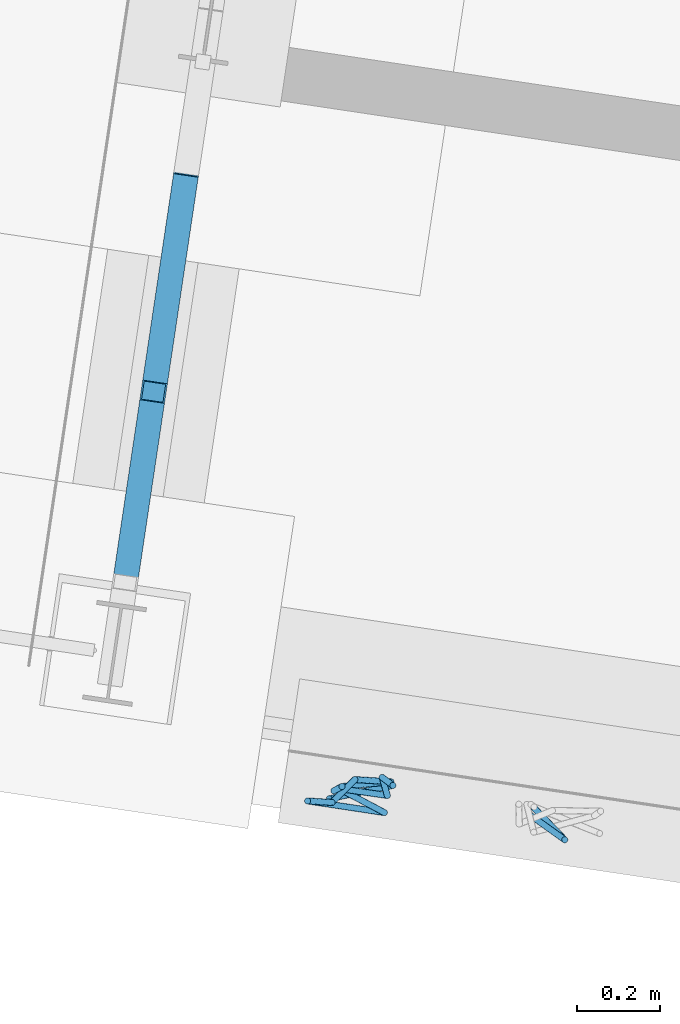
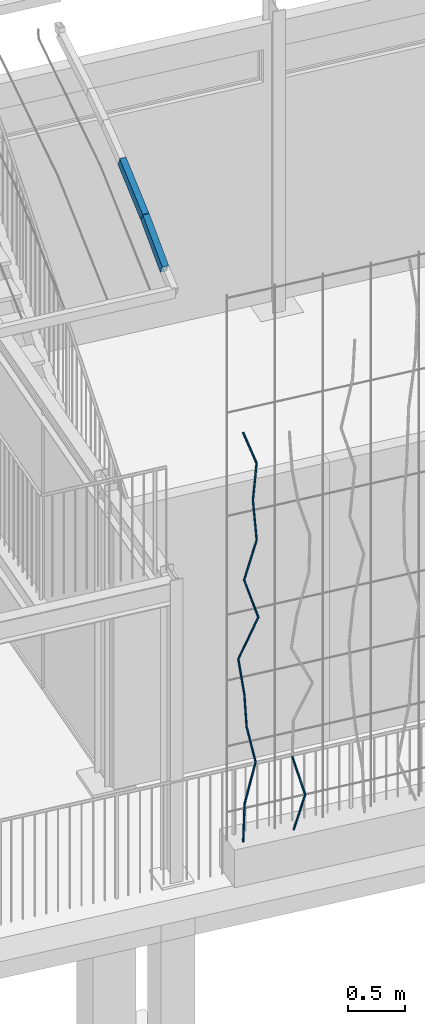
# One storey, part 111 of 143: 15 members, 2 elements without a shape of their own.
"""IFC4 building model written with IfcOpenShell, lengths in metres."""

from ifc_helpers import new_model, si_unit, direction, frame, origin_with_axes, place, context, subcontext, project, spatial, hollow_rectangle, circle, extrude, material, material_profile, profile_set, profile_usage, type_object, element, aggregate, save


model = new_model("IFC4")

# Units and contexts
model_context = context("Model", 3, precision=1e-05, world=origin_with_axes(), true_north=direction((0.0, 1.0)))
body_context = subcontext(model_context, "Body", "Model", "MODEL_VIEW")
ifc_project = project(units=[si_unit("VOLUMEUNIT", "CUBIC_METRE"), si_unit("LENGTHUNIT", "METRE"), si_unit("AREAUNIT", "SQUARE_METRE")], contexts=[model_context])

# Site, building, storey
site_placement = place(None, origin_with_axes())
site = spatial("IfcSite", under=ifc_project, at=site_placement, Name="Lares · Rua das Mercês · artigo 4771")
building_placement = place(site_placement, frame((15.0, 9.7, 15.8), z_axis=(0.0, 0.0, 1.0), x_axis=(0.989015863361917, -0.147809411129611, 0.0)))
building = spatial("IfcBuilding", under=site, at=building_placement, Name="Casa Sobreposta")
storey_placement = place(building_placement, origin_with_axes())
storey = spatial("IfcBuildingStorey", under=building, at=storey_placement, Name="00 · Habitação e estacionamento", Elevation=15.8)

# Assembly, members
assembly_1_placement = place(storey_placement, origin_with_axes())
assembly_1 = element("IfcElementAssembly", 1, at=assembly_1_placement, inside=storey, Name="Pérgola · prolongamento da estufa 6 m", ObjectType="PERGOLA_GREENHOUSE_EXTENSION", PredefinedType="USERDEFINED")
ifc_material_1 = material(Name="Aço pintado / Stahl lackiert", Category="steel")
ifc_material_profile_1 = material_profile(ifc_material_1, hollow_rectangle(XDim=0.06, YDim=0.1, WallThickness=0.004))
ifc_profile_set_1 = profile_set([ifc_material_profile_1], Name="RHS100x60x4")
ifc_profile_usage_1 = profile_usage(ifc_profile_set_1)
member_type_1 = type_object("IfcMemberType", Name="RHS100x60x4 / steel", PredefinedType="NOTDEFINED", material=ifc_profile_set_1)
member_1_placement = place(assembly_1_placement, frame((0.0, -1.26765509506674, 6.32392631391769), z_axis=(0.0, 0.878851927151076, 0.477094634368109), x_axis=(1.0, 0.0, 0.0)))
member_1 = element("IfcMember", 2, at=member_1_placement, type_object=member_type_1, material=ifc_profile_usage_1, Name="Pérgola · arco contínuo com a estufa", context=body_context, shape_type="SweptSolid", body=[
    extrude(hollow_rectangle(XDim=0.06, YDim=0.1, WallThickness=0.004), origin_with_axes(), (0.0, 0.0, 1.0), 0.52863528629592),
])
ifc_profile_usage_2 = profile_usage(ifc_profile_set_1)
member_2_placement = place(assembly_1_placement, frame((0.0, -0.803062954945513, 6.57613537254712), z_axis=(0.0, 0.915885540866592, 0.401439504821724), x_axis=(1.0, 0.0, 0.0)))
member_2 = element("IfcMember", 3, at=member_2_placement, type_object=member_type_1, material=ifc_profile_usage_2, Name="Pérgola · arco contínuo com a estufa", context=body_context, shape_type="SweptSolid", body=[
    extrude(hollow_rectangle(XDim=0.06, YDim=0.1, WallThickness=0.004), origin_with_axes(), (0.0, 0.0, 1.0), 0.596771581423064),
])
aggregate(assembly_1, [member_1, member_2])

assembly_2_placement = place(storey_placement, origin_with_axes())
assembly_2 = element("IfcElementAssembly", 4, at=assembly_2_placement, inside=storey, Name="Fachada sul e pátio · estrutura e trepadeiras", ObjectType="LIVING_SHADE_TRELLIS", PredefinedType="USERDEFINED")
ifc_material_2 = material(Name="Ramos de trepadeiras", Category="wood")
ifc_material_profile_2 = material_profile(ifc_material_2, circle(Radius=0.0075))
ifc_profile_set_2 = profile_set([ifc_material_profile_2], Name="D0.015")
ifc_profile_usage_3 = profile_usage(ifc_profile_set_2)
member_type_2 = type_object("IfcMemberType", Name="D0.015 / vine_wood", PredefinedType="NOTDEFINED", material=ifc_profile_set_2)
member_3_placement = place(assembly_2_placement, frame((0.571287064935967, -1.6890751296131, 0.35), z_axis=(0.0449251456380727, 0.0325114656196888, 0.99846118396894), x_axis=(0.586266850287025, -0.810118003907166, 0.0)))
member_3 = element("IfcMember", 5, at=member_3_placement, type_object=member_type_2, material=ifc_profile_usage_3, Name="Trepadeiras · ramo", context=body_context, shape_type="SweptSolid", body=[
    extrude(circle(Radius=0.0075), origin_with_axes(), (0.0, 0.0, 1.0), 0.398376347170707),
])
ifc_profile_usage_4 = profile_usage(ifc_profile_set_2)
member_4_placement = place(assembly_2_placement, frame((0.589184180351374, -1.67612333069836, 0.747763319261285), z_axis=(0.276858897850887, 0.0690830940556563, 0.958424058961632), x_axis=(0.242101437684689, -0.970250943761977, 0.0)))
member_4 = element("IfcMember", 6, at=member_4_placement, type_object=member_type_2, material=ifc_profile_usage_4, Name="Trepadeiras · ramo", context=body_context, shape_type="SweptSolid", body=[
    extrude(circle(Radius=0.0075), origin_with_axes(), (0.0, 0.0, 1.0), 0.415018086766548),
])
ifc_profile_usage_5 = profile_usage(ifc_profile_set_2)
member_5_placement = place(assembly_2_placement, frame((0.704085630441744, -1.64745259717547, 1.14552663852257), z_axis=(-0.213497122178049, -0.0182552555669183, 0.976773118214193), x_axis=(-0.0851949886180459, 0.996364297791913, 0.0)))
member_5 = element("IfcMember", 7, at=member_5_placement, type_object=member_type_2, material=ifc_profile_usage_5, Name="Trepadeiras · ramo", context=body_context, shape_type="SweptSolid", body=[
    extrude(circle(Radius=0.0075), origin_with_axes(), (0.0, 0.0, 1.0), 0.40722181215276),
])
ifc_profile_usage_6 = profile_usage(ifc_profile_set_2)
member_6_placement = place(assembly_2_placement, frame((0.617144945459, -1.65488653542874, 1.54328995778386), z_axis=(-0.114116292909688, -0.154704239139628, 0.981348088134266), x_axis=(-0.80474844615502, 0.593615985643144, 0.0)))
member_6 = element("IfcMember", 8, at=member_6_placement, type_object=member_type_2, material=ifc_profile_usage_6, Name="Trepadeiras · ramo", context=body_context, shape_type="SweptSolid", body=[
    extrude(circle(Radius=0.0075), origin_with_axes(), (0.0, 0.0, 1.0), 0.405323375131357),
])
ifc_profile_usage_7 = profile_usage(ifc_profile_set_2)
member_7_placement = place(assembly_2_placement, frame((0.570890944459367, -1.71759177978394, 1.94105327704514), z_axis=(-0.145417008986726, -0.0128334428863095, 0.989287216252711), x_axis=(-0.0879110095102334, 0.996128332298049, 0.0)))
member_7 = element("IfcMember", 9, at=member_7_placement, type_object=member_type_2, material=ifc_profile_usage_7, Name="Trepadeiras · ramo", context=body_context, shape_type="SweptSolid", body=[
    extrude(circle(Radius=0.0075), origin_with_axes(), (0.0, 0.0, 1.0), 0.402070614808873),
])
ifc_profile_usage_8 = profile_usage(ifc_profile_set_2)
member_8_placement = place(assembly_2_placement, frame((0.512423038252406, -1.72275173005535, 2.33881659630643), z_axis=(0.425540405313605, -0.000956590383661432, 0.904938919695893), x_axis=(-0.00224793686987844, -0.999997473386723, 0.0)))
member_8 = element("IfcMember", 10, at=member_8_placement, type_object=member_type_2, material=ifc_profile_usage_8, Name="Trepadeiras · ramo", context=body_context, shape_type="SweptSolid", body=[
    extrude(circle(Radius=0.0075), origin_with_axes(), (0.0, 0.0, 1.0), 0.439547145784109),
])
ifc_profile_usage_9 = profile_usage(ifc_profile_set_2)
member_9_placement = place(assembly_2_placement, frame((0.699468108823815, -1.72317219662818, 2.73657991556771), z_axis=(-0.279690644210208, 0.0988134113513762, 0.954991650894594), x_axis=(0.333117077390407, 0.942885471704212, 0.0)))
member_9 = element("IfcMember", 11, at=member_9_placement, type_object=member_type_2, material=ifc_profile_usage_9, Name="Trepadeiras · ramo", context=body_context, shape_type="SweptSolid", body=[
    extrude(circle(Radius=0.0075), origin_with_axes(), (0.0, 0.0, 1.0), 0.416509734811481),
])
ifc_profile_usage_10 = profile_usage(ifc_profile_set_2)
member_10_placement = place(assembly_2_placement, frame((0.582974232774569, -1.6820154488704, 3.134343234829), z_axis=(0.282811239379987, 0.00141958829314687, 0.959174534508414), x_axis=(0.00501949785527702, -0.999987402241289, 0.0)))
member_10 = element("IfcMember", 12, at=member_10_placement, type_object=member_type_2, material=ifc_profile_usage_10, Name="Trepadeiras · ramo", context=body_context, shape_type="SweptSolid", body=[
    extrude(circle(Radius=0.0075), origin_with_axes(), (0.0, 0.0, 1.0), 0.414693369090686),
])
ifc_profile_usage_11 = profile_usage(ifc_profile_set_2)
member_11_placement = place(assembly_2_placement, frame((0.700254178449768, -1.68142675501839, 3.53210655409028), z_axis=(-0.0466461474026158, 0.103318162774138, 0.993553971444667), x_axis=(0.911415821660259, 0.411486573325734, 0.0)))
member_11 = element("IfcMember", 13, at=member_11_placement, type_object=member_type_2, material=ifc_profile_usage_11, Name="Trepadeiras · ramo", context=body_context, shape_type="SweptSolid", body=[
    extrude(circle(Radius=0.0075), origin_with_axes(), (0.0, 0.0, 1.0), 0.400343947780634),
])
ifc_profile_usage_12 = profile_usage(ifc_profile_set_2)
member_12_placement = place(assembly_2_placement, frame((0.681579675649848, -1.64006395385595, 3.92986987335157), z_axis=(0.0709561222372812, -0.0384390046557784, 0.996738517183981), x_axis=(-0.476325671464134, -0.879268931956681, 0.0)))
member_12 = element("IfcMember", 14, at=member_12_placement, type_object=member_type_2, material=ifc_profile_usage_12, Name="Trepadeiras · ramo", context=body_context, shape_type="SweptSolid", body=[
    extrude(circle(Radius=0.0075), origin_with_axes(), (0.0, 0.0, 1.0), 0.399064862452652),
])
ifc_profile_usage_13 = profile_usage(ifc_profile_set_2)
member_13_placement = place(assembly_2_placement, frame((0.709895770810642, -1.65540360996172, 4.32763319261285), z_axis=(-0.343609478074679, -0.127449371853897, 0.930424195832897), x_axis=(-0.347762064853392, 0.937582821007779, 0.0)))
member_13 = element("IfcMember", 15, at=member_13_placement, type_object=member_type_2, material=ifc_profile_usage_13, Name="Trepadeiras · ramo", context=body_context, shape_type="SweptSolid", body=[
    extrude(circle(Radius=0.0075), origin_with_axes(), (0.0, 0.0, 1.0), 0.427507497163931),
])
ifc_profile_usage_14 = profile_usage(ifc_profile_set_2)
member_14_placement = place(assembly_2_placement, frame((1.04734269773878, -1.67706195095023, 0.35), z_axis=(0.229015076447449, -0.117080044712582, 0.96635622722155), x_axis=(-0.455197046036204, -0.890390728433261, 0.0)))
member_14 = element("IfcMember", 16, at=member_14_placement, type_object=member_type_2, material=ifc_profile_usage_14, Name="Trepadeiras · ramo", context=body_context, shape_type="SweptSolid", body=[
    extrude(circle(Radius=0.0075), origin_with_axes(), (0.0, 0.0, 1.0), 0.398527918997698),
])
ifc_profile_usage_15 = profile_usage(ifc_profile_set_2)
member_15_placement = place(assembly_2_placement, frame((1.13861159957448, -1.7237216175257, 0.735119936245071), z_axis=(-0.231181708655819, 0.178601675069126, 0.956376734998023), x_axis=(0.611364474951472, 0.791349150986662, 0.0)))
member_15 = element("IfcMember", 17, at=member_15_placement, type_object=member_type_2, material=ifc_profile_usage_15, Name="Trepadeiras · ramo", context=body_context, shape_type="SweptSolid", body=[
    extrude(circle(Radius=0.0075), origin_with_axes(), (0.0, 0.0, 1.0), 0.402686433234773),
])
aggregate(assembly_2, [member_3, member_4, member_5, member_6, member_7, member_8, member_9, member_10, member_11, member_12, member_13, member_14, member_15])

save(model, "model.ifc")
